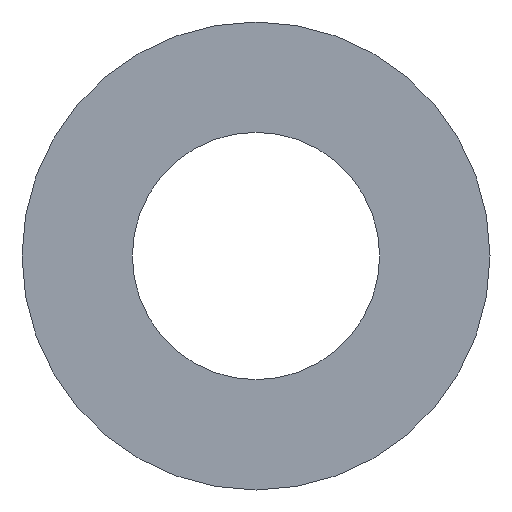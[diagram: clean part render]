
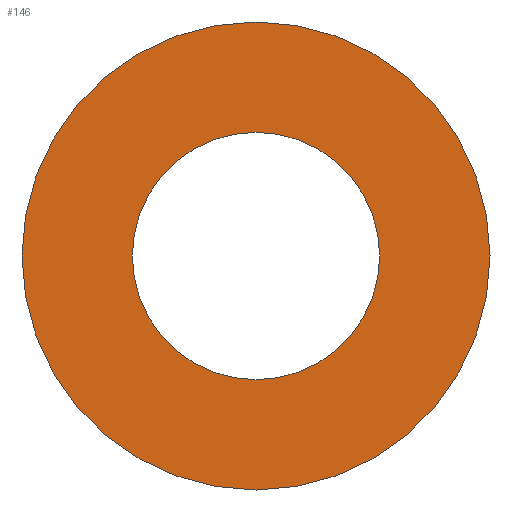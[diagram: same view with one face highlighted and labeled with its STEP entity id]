
A CAD part, front view. The second image highlights one B-rep face of the part: STEP entity #146.
In plain terms, the highlighted planar face has unit normal (0, -1, 0).
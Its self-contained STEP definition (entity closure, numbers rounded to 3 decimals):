
#6 = DIRECTION ( 'NONE',  ( 0., 0., 1. ) ) ;
#9 = DIRECTION ( 'NONE',  ( 0., 0., 1. ) ) ;
#19 = CARTESIAN_POINT ( 'NONE',  ( 0., -1.6, -3.7 ) ) ;
#24 = CARTESIAN_POINT ( 'NONE',  ( 0., -1.6, 0. ) ) ;
#26 = DIRECTION ( 'NONE',  ( 0., 0., 1. ) ) ;
#29 = EDGE_LOOP ( 'NONE', ( #193, #72 ) ) ;
#43 = VERTEX_POINT ( 'NONE', #225 ) ;
#46 = DIRECTION ( 'NONE',  ( 0., -1., 0. ) ) ;
#47 = FACE_OUTER_BOUND ( 'NONE', #129, .T. ) ;
#58 = AXIS2_PLACEMENT_3D ( 'NONE', #62, #122, #175 ) ;
#62 = CARTESIAN_POINT ( 'NONE',  ( 0., -1.6, 0. ) ) ;
#72 = ORIENTED_EDGE ( 'NONE', *, *, #234, .T. ) ;
#80 = CIRCLE ( 'NONE', #138, 3.7 ) ;
#89 = AXIS2_PLACEMENT_3D ( 'NONE', #98, #100, #6 ) ;
#98 = CARTESIAN_POINT ( 'NONE',  ( 0., -1.6, 0. ) ) ;
#100 = DIRECTION ( 'NONE',  ( 0., 1., 0. ) ) ;
#104 = PLANE ( 'NONE',  #211 ) ;
#122 = DIRECTION ( 'NONE',  ( 0., 1., 0. ) ) ;
#123 = ORIENTED_EDGE ( 'NONE', *, *, #216, .F. ) ;
#125 = AXIS2_PLACEMENT_3D ( 'NONE', #178, #238, #26 ) ;
#129 = EDGE_LOOP ( 'NONE', ( #163, #123 ) ) ;
#136 = CIRCLE ( 'NONE', #125, 7. ) ;
#138 = AXIS2_PLACEMENT_3D ( 'NONE', #24, #196, #9 ) ;
#144 = CARTESIAN_POINT ( 'NONE',  ( 0., -1.6, 3.7 ) ) ;
#146 = ADVANCED_FACE ( 'NONE', ( #239, #47 ), #104, .T. ) ;
#147 = VERTEX_POINT ( 'NONE', #144 ) ;
#155 = VERTEX_POINT ( 'NONE', #19 ) ;
#160 = VERTEX_POINT ( 'NONE', #165 ) ;
#162 = DIRECTION ( 'NONE',  ( 0., 0., -1. ) ) ;
#163 = ORIENTED_EDGE ( 'NONE', *, *, #236, .F. ) ;
#165 = CARTESIAN_POINT ( 'NONE',  ( 0., -1.6, 7. ) ) ;
#175 = DIRECTION ( 'NONE',  ( 0., 0., 1. ) ) ;
#178 = CARTESIAN_POINT ( 'NONE',  ( 0., -1.6, 0. ) ) ;
#179 = CIRCLE ( 'NONE', #89, 3.7 ) ;
#181 = EDGE_CURVE ( 'NONE', #147, #155, #80, .T. ) ;
#193 = ORIENTED_EDGE ( 'NONE', *, *, #181, .T. ) ;
#196 = DIRECTION ( 'NONE',  ( 0., 1., 0. ) ) ;
#211 = AXIS2_PLACEMENT_3D ( 'NONE', #243, #46, #162 ) ;
#216 = EDGE_CURVE ( 'NONE', #43, #160, #246, .T. ) ;
#225 = CARTESIAN_POINT ( 'NONE',  ( 0., -1.6, -7. ) ) ;
#234 = EDGE_CURVE ( 'NONE', #155, #147, #179, .T. ) ;
#236 = EDGE_CURVE ( 'NONE', #160, #43, #136, .T. ) ;
#238 = DIRECTION ( 'NONE',  ( 0., 1., 0. ) ) ;
#239 = FACE_BOUND ( 'NONE', #29, .T. ) ;
#243 = CARTESIAN_POINT ( 'NONE',  ( 0., -1.6, 7. ) ) ;
#246 = CIRCLE ( 'NONE', #58, 7. ) ;
